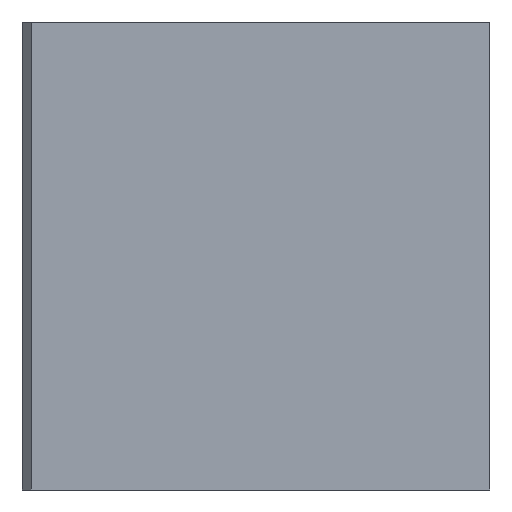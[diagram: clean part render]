
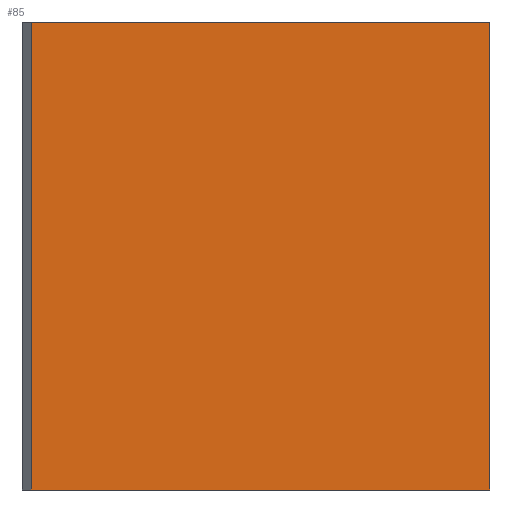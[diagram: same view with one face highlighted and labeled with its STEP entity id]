
A CAD part, front view. The second image highlights one B-rep face of the part: STEP entity #85.
In plain terms, the highlighted planar face has unit normal (0, -1, 0).
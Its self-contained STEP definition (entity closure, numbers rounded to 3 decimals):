
#85 = ADVANCED_FACE ( 'NONE', ( #3571 ), #8275, .F. ) ;
#154 = EDGE_CURVE ( 'NONE', #6785, #1033, #7709, .T. ) ;
#195 = VERTEX_POINT ( 'NONE', #3580 ) ;
#311 = VECTOR ( 'NONE', #5409, 1000. ) ;
#472 = LINE ( 'NONE', #3649, #311 ) ;
#1033 = VERTEX_POINT ( 'NONE', #8141 ) ;
#1077 = EDGE_LOOP ( 'NONE', ( #9245, #7398, #8766, #8002 ) ) ;
#1576 = CARTESIAN_POINT ( 'NONE',  ( -29.757, -24.493, 0. ) ) ;
#1974 = EDGE_CURVE ( 'NONE', #1033, #2962, #472, .T. ) ;
#2437 = EDGE_CURVE ( 'NONE', #2962, #195, #6659, .T. ) ;
#2464 = VECTOR ( 'NONE', #3218, 1000. ) ;
#2515 = CARTESIAN_POINT ( 'NONE',  ( -42.007, -24.493, -12.5 ) ) ;
#2962 = VERTEX_POINT ( 'NONE', #7575 ) ;
#3218 = DIRECTION ( 'NONE',  ( -1., 0., 0. ) ) ;
#3571 = FACE_OUTER_BOUND ( 'NONE', #1077, .T. ) ;
#3580 = CARTESIAN_POINT ( 'NONE',  ( -29.757, -24.493, 12.5 ) ) ;
#3649 = CARTESIAN_POINT ( 'NONE',  ( -54.257, -24.493, 0. ) ) ;
#3788 = VECTOR ( 'NONE', #8909, 1000. ) ;
#4091 = LINE ( 'NONE', #1576, #3788 ) ;
#5409 = DIRECTION ( 'NONE',  ( 0., 0., 1. ) ) ;
#6422 = AXIS2_PLACEMENT_3D ( 'NONE', #9388, #9969, #6763 ) ;
#6609 = VECTOR ( 'NONE', #10121, 1000. ) ;
#6659 = LINE ( 'NONE', #10217, #6609 ) ;
#6763 = DIRECTION ( 'NONE',  ( 0., 0., 1. ) ) ;
#6785 = VERTEX_POINT ( 'NONE', #9952 ) ;
#7398 = ORIENTED_EDGE ( 'NONE', *, *, #154, .F. ) ;
#7575 = CARTESIAN_POINT ( 'NONE',  ( -54.257, -24.493, 12.5 ) ) ;
#7709 = LINE ( 'NONE', #2515, #2464 ) ;
#8002 = ORIENTED_EDGE ( 'NONE', *, *, #2437, .F. ) ;
#8141 = CARTESIAN_POINT ( 'NONE',  ( -54.257, -24.493, -12.5 ) ) ;
#8275 = PLANE ( 'NONE',  #6422 ) ;
#8766 = ORIENTED_EDGE ( 'NONE', *, *, #9403, .T. ) ;
#8909 = DIRECTION ( 'NONE',  ( 0., 0., 1. ) ) ;
#9245 = ORIENTED_EDGE ( 'NONE', *, *, #1974, .F. ) ;
#9388 = CARTESIAN_POINT ( 'NONE',  ( -54.257, -24.493, -12.5 ) ) ;
#9403 = EDGE_CURVE ( 'NONE', #6785, #195, #4091, .T. ) ;
#9952 = CARTESIAN_POINT ( 'NONE',  ( -29.757, -24.493, -12.5 ) ) ;
#9969 = DIRECTION ( 'NONE',  ( 0., 1., 0. ) ) ;
#10121 = DIRECTION ( 'NONE',  ( 1., 0., 0. ) ) ;
#10217 = CARTESIAN_POINT ( 'NONE',  ( -42.257, -24.493, 12.5 ) ) ;
